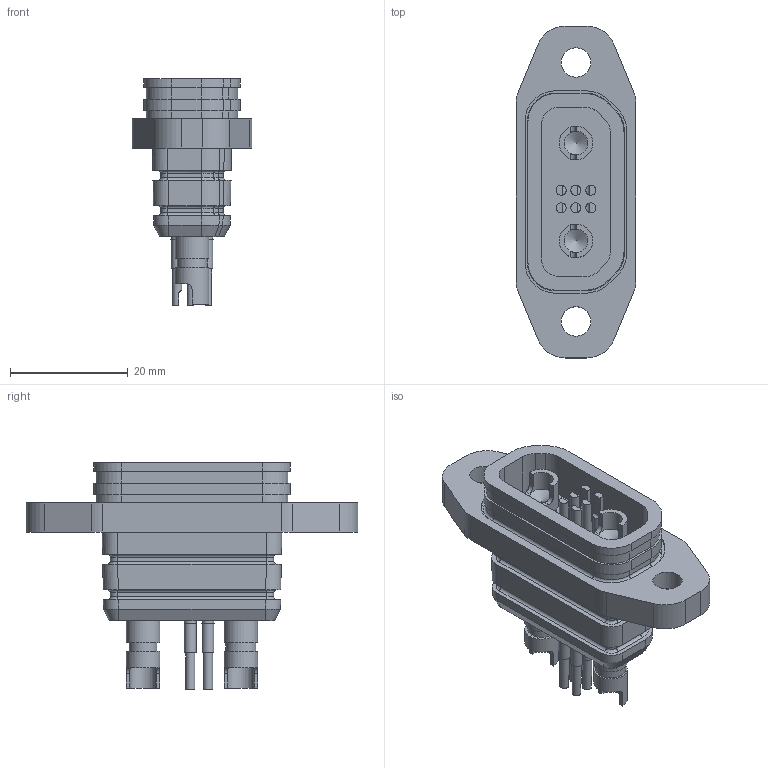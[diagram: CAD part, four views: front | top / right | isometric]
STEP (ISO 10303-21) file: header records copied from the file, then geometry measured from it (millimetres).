
FILE_DESCRIPTION(/* description */ ('STEP AP242 Edition 2','CAx-IF Rec.Pracs.---Representation and Presentation of Product Manufacturing Information (PMI)---4.0---2014-10-13','CAx-IF Rec.Pracs.---3D Tessellated Geometry---0.4---2014-09-14','2;1','CAx-IF Rec.Pracs.---User Defined Attributes---1.5---2016-08-15'),/* implementation_level */ '2;1');
FILE_NAME(/* name */ 'Assy_ForMFG - Discharge_Port',/* time_stamp */ '2026-05-15T19:56:10Z',/* author */ (''),/* organization */ (''),/* preprocessor_version */ 'ST-DEVELOPER v20',/* originating_system */ 'ONSHAPE BY PTC INC, 1.215',/* authorisation */ ' ');
FILE_SCHEMA (('AP242_MANAGED_MODEL_BASED_3D_ENGINEERING_MIM_LF { 1 0 10303 442 3 1 4 }'));
Length unit declared in the file: metre
Products named in the file (1): Discharge_Port
Bounding box: 20.33 x 56.4 x 38.55 mm (x, y, z)
Volume: 9987.3 mm3; surface area: 9585.1 mm2
Topology: 1 solids, 7 shells, 575 faces, 1540 edges, 1006 vertices
Faces by surface type: plane 261, cylinder 206, bspline 50, torus 28, cone 24, sphere 6
Full cylindrical faces by diameter (mm): 0.7 x6, 1.5 x12, 1.6 x6, 1.7 x6, 2 x14, 2.1 x6, 4 x2, 4.5 x4, 4.7 x1, 5 x4, 5.1 x1, 5.7 x6
Entity records: 20281 total; most frequent: CARTESIAN_POINT 7122, ORIENTED_EDGE 2686, DIRECTION 2597, EDGE_CURVE 1343, AXIS2_PLACEMENT_3D 950, VERTEX_POINT 923, FACE_BOUND 732, EDGE_LOOP 714
